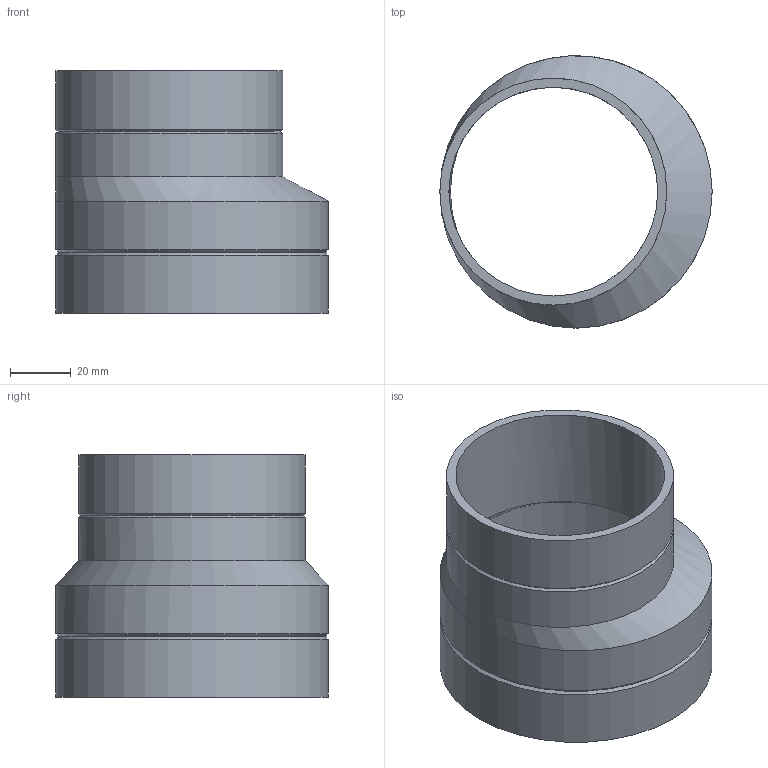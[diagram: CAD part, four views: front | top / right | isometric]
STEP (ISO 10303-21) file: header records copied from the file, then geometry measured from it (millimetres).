
FILE_DESCRIPTION(/* description */ (''),/* implementation_level */ '2;1');
FILE_NAME(/* name */ 'Z:\Geberit\Export\NewStep\366576.stp',/* time_stamp */ '2014-04-02T07:54:37+02:00',/* author */ ('nelson'),/* organization */ (''),/* preprocessor_version */ 'ST-DEVELOPER v15.2',/* originating_system */ 'Autodesk Inventor 2014',/* authorisation */ '');
FILE_SCHEMA (('AUTOMOTIVE_DESIGN { 1 0 10303 214 3 1 1 }'));
Length unit declared in the file: millimetre
Products named in the file (1): 366576
Bounding box: 90 x 90 x 80 mm (x, y, z)
Volume: 65077.6 mm3; surface area: 43685.6 mm2
Topology: 1 solids, 1 shells, 14 faces, 38 edges, 26 vertices
Faces by surface type: cylinder 6, cone 4, bspline 2, plane 2
Full cylindrical faces by diameter (mm): 69 x1, 75 x2, 83 x1, 90 x2
Entity records: 417 total; most frequent: CARTESIAN_POINT 93, DIRECTION 66, ORIENTED_EDGE 44, AXIS2_PLACEMENT_3D 33, EDGE_LOOP 26, EDGE_CURVE 22, CIRCLE 20, VERTEX_POINT 20
